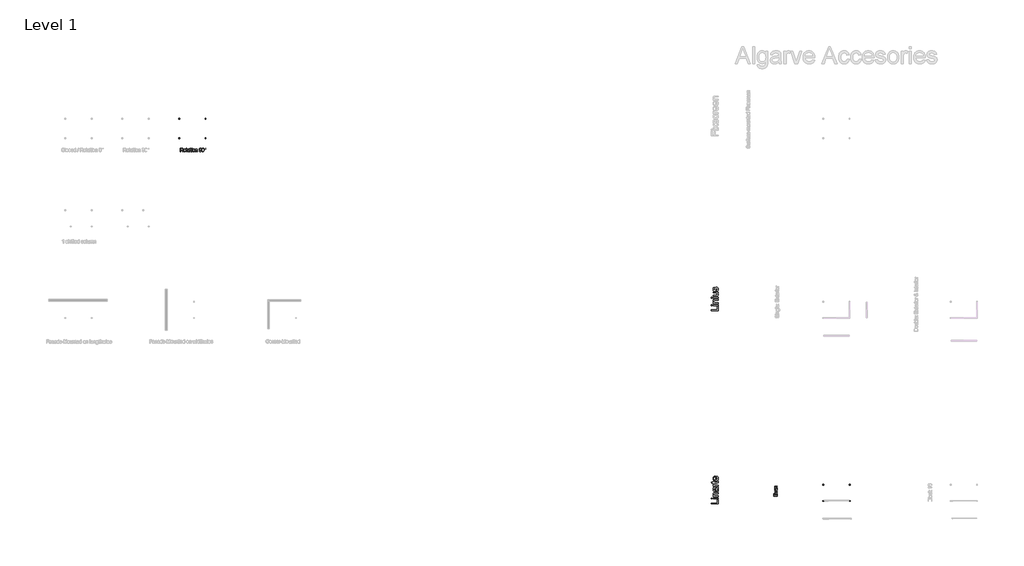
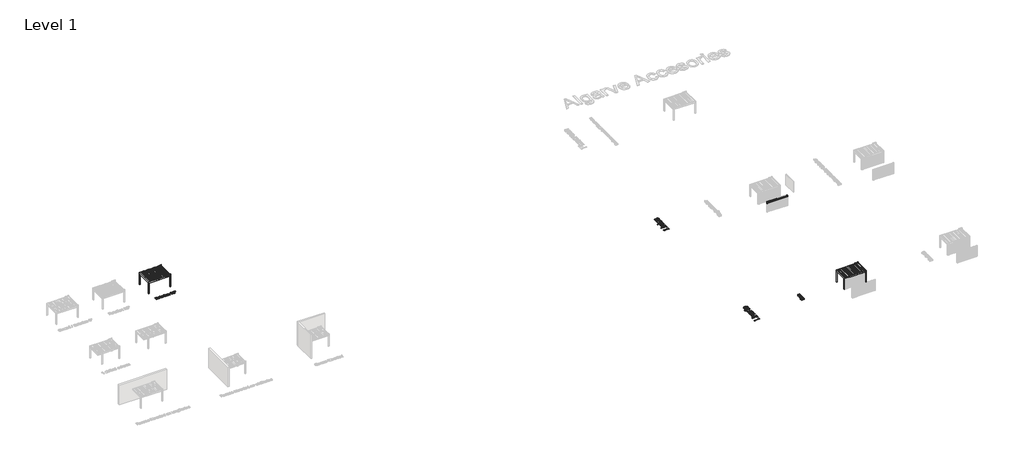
# One storey, part 35 of 47: 16 proxies.
"""IFC4 building model written with IfcOpenShell, lengths in millimetres."""

from ifc_helpers import new_model, si_unit, frame, origin, origin_with_axes, place, context, project, spatial, polyline, outline, extrude, transform, mapped, element, save
from components import generic_models_6c472f40, generic_models_74493efa

model = new_model("IFC4")

# Units and contexts
model_context = context("Model", 3, world=origin())
ifc_project = project(units=[si_unit("LENGTHUNIT", "METRE", prefix="MILLI")], contexts=[model_context])

# Site, building, storey
site = spatial("IfcSite", under=ifc_project)
building = spatial("IfcBuilding", under=site)
storey = spatial("IfcBuildingStorey", under=building, Name="Level 1", Elevation=0.0)

# Proxies
placement = place(None, origin())
element("IfcBuildingElementProxy", 1, Name="Wall Sweeps", at=placement, inside=storey, context=model_context, shape_type="SweptSolid", body=[
    extrude(outline(polyline([(36890.3757764, 1974.0), (36909.5257764, 1985.0562577), (36909.5257764, 1998.0), (36910.7757764, 1998.0), (36910.7757764, 1984.3345698), (36891.6257764, 1973.2782281), (36891.6257764, 1961.2216933), (36890.3757764, 1960.5), (36890.3757764, 1974.0)])), frame((186472.4238385, 0.0, 0.0), z_axis=(1.0, 0.0, 0.0), x_axis=(0.0, 1.0, 0.0)), (0.0, 0.0, 1.0), 3780.0),
])
element("IfcBuildingElementProxy", 2, Name="Wall Sweeps", at=placement, inside=storey, context=model_context, shape_type="SweptSolid", body=[
    extrude(outline(polyline([(36890.3757764, 1940.7), (36909.5257764, 1951.7562577), (36909.5257764, 1964.7), (36910.7757764, 1964.7), (36910.7757764, 1951.0345698), (36891.6257764, 1939.9782281), (36891.6257764, 1927.9216933), (36890.3757764, 1927.2), (36890.3757764, 1940.7)])), frame((186472.4238385, 0.0, 0.0), z_axis=(1.0, 0.0, 0.0), x_axis=(0.0, 1.0, 0.0)), (0.0, 0.0, 1.0), 3780.0),
])
element("IfcBuildingElementProxy", 3, Name="Wall Sweeps", at=placement, inside=storey, context=model_context, shape_type="SweptSolid", body=[
    extrude(outline(polyline([(36890.3757764, 1907.4), (36909.5257764, 1918.4562577), (36909.5257764, 1931.4), (36910.7757764, 1931.4), (36910.7757764, 1917.7345698), (36891.6257764, 1906.6782281), (36891.6257764, 1894.6216933), (36890.3757764, 1893.9), (36890.3757764, 1907.4)])), frame((186472.4238385, 0.0, 0.0), z_axis=(1.0, 0.0, 0.0), x_axis=(0.0, 1.0, 0.0)), (0.0, 0.0, 1.0), 3780.0),
])
element("IfcBuildingElementProxy", 4, Name="Wall Sweeps", at=placement, inside=storey, context=model_context, shape_type="SweptSolid", body=[
    extrude(outline(polyline([(36890.3757764, 1874.1), (36909.5257764, 1885.1562577), (36909.5257764, 1898.1), (36910.7757764, 1898.1), (36910.7757764, 1884.4345698), (36891.6257764, 1873.3782281), (36891.6257764, 1861.3216933), (36890.3757764, 1860.6), (36890.3757764, 1874.1)])), frame((186472.4238385, 0.0, 0.0), z_axis=(1.0, 0.0, 0.0), x_axis=(0.0, 1.0, 0.0)), (0.0, 0.0, 1.0), 3780.0),
])
element("IfcBuildingElementProxy", 5, Name="Wall Sweeps", at=placement, inside=storey, context=model_context, shape_type="SweptSolid", body=[
    extrude(outline(polyline([(36890.3757764, 1840.8), (36909.5257764, 1851.8562577), (36909.5257764, 1864.8), (36910.7757764, 1864.8), (36910.7757764, 1851.1345698), (36891.6257764, 1840.0782281), (36891.6257764, 1828.0216933), (36890.3757764, 1827.3), (36890.3757764, 1840.8)])), frame((186472.4238385, 0.0, 0.0), z_axis=(1.0, 0.0, 0.0), x_axis=(0.0, 1.0, 0.0)), (0.0, 0.0, 1.0), 3780.0),
])
element("IfcBuildingElementProxy", 6, Name="Wall Sweeps", at=placement, inside=storey, context=model_context, shape_type="SweptSolid", body=[
    extrude(outline(polyline([(36890.3757764, 1807.5), (36909.5257764, 1818.5562577), (36909.5257764, 1831.5), (36910.7757764, 1831.5), (36910.7757764, 1817.8345698), (36891.6257764, 1806.7782281), (36891.6257764, 1794.7216933), (36890.3757764, 1794.0), (36890.3757764, 1807.5)])), frame((186472.4238385, 0.0, 0.0), z_axis=(1.0, 0.0, 0.0), x_axis=(0.0, 1.0, 0.0)), (0.0, 0.0, 1.0), 3780.0),
])
element("IfcBuildingElementProxy", 7, Name="Wall Sweeps", at=placement, inside=storey, context=model_context, shape_type="SweptSolid", body=[
    extrude(outline(polyline([(36890.3757764, 1774.2), (36909.5257764, 1785.2562577), (36909.5257764, 1798.2), (36910.7757764, 1798.2), (36910.7757764, 1784.5345698), (36891.6257764, 1773.4782281), (36891.6257764, 1761.4216933), (36890.3757764, 1760.7), (36890.3757764, 1774.2)])), frame((186472.4238385, 0.0, 0.0), z_axis=(1.0, 0.0, 0.0), x_axis=(0.0, 1.0, 0.0)), (0.0, 0.0, 1.0), 3780.0),
])
element("IfcBuildingElementProxy", 8, Name="Wall Sweeps", at=placement, inside=storey, context=model_context, shape_type="SweptSolid", body=[
    extrude(outline(polyline([(36890.3757764, 1740.9), (36909.5257764, 1751.9562577), (36909.5257764, 1764.9), (36910.7757764, 1764.9), (36910.7757764, 1751.2345698), (36891.6257764, 1740.1782281), (36891.6257764, 1728.1216933), (36890.3757764, 1727.4), (36890.3757764, 1740.9)])), frame((186472.4238385, 0.0, 0.0), z_axis=(1.0, 0.0, 0.0), x_axis=(0.0, 1.0, 0.0)), (0.0, 0.0, 1.0), 3780.0),
])
element("IfcBuildingElementProxy", 9, Name="Wall Sweeps", at=placement, inside=storey, context=model_context, shape_type="SweptSolid", body=[
    extrude(outline(polyline([(36890.3757764, 1707.6), (36909.5257764, 1718.6562577), (36909.5257764, 1731.6), (36910.7757764, 1731.6), (36910.7757764, 1717.9345698), (36891.6257764, 1706.8782281), (36891.6257764, 1694.8216933), (36890.3757764, 1694.1), (36890.3757764, 1707.6)])), frame((186472.4238385, 0.0, 0.0), z_axis=(1.0, 0.0, 0.0), x_axis=(0.0, 1.0, 0.0)), (0.0, 0.0, 1.0), 3780.0),
])
element("IfcBuildingElementProxy", 10, Name="Wall Sweeps", at=placement, inside=storey, context=model_context, shape_type="SweptSolid", body=[
    extrude(outline(polyline([(36890.3757764, 1674.3), (36909.5257764, 1685.3562577), (36909.5257764, 1698.3), (36910.7757764, 1698.3), (36910.7757764, 1684.6345698), (36891.6257764, 1673.5782281), (36891.6257764, 1661.5216933), (36890.3757764, 1660.8), (36890.3757764, 1674.3)])), frame((186472.4238385, 0.0, 0.0), z_axis=(1.0, 0.0, 0.0), x_axis=(0.0, 1.0, 0.0)), (0.0, 0.0, 1.0), 3780.0),
])
generic_models_shape = generic_models_6c472f40(model_context)
element("IfcBuildingElementProxy", 11, Name="Renson_Algarve_Single : Algarve - Single", ObjectType="Renson_Algarve_Single : Algarve - Single", at=placement, inside=storey, context=model_context, shape_type="MappedRepresentation", body=[
    mapped(generic_models_shape, transform((188372.4238385, 13765.7325968, 0.0), x_axis=(1.0, 0.0, 0.0), y_axis=(0.0, 1.0, 0.0), z_axis=(0.0, 0.0, 1.0))),
])
generic_models_2_shape = generic_models_74493efa(model_context)
element("IfcBuildingElementProxy", 12, Name="Renson_Algarve_Single Unit With Intermediate Beam : Algarve - Single Unit With Intermediate Beam", ObjectType="Renson_Algarve_Single Unit With Intermediate Beam : Algarve - Single Unit With Intermediate Beam", at=placement, inside=storey, context=model_context, shape_type="MappedRepresentation", body=[
    mapped(generic_models_2_shape, transform((93332.7944478, 68278.5861401, 0.0), x_axis=(1.0, 0.0, 0.0), y_axis=(0.0, 1.0, 0.0), z_axis=(0.0, 0.0, 1.0))),
])
element("IfcBuildingElementProxy", 13, Name="1000mm Arial", ObjectType="1000mm Arial", at=placement, inside=storey, context=model_context, shape_type="SweptSolid", body=[
    extrude(outline(polyline([(170912.6292126, 40635.9088515), (169908.0661111, 40635.9088515), (169908.0661111, 40761.4792392), (170787.058825, 40761.4792392), (170787.058825, 41263.76079), (170912.6292126, 41263.76079), (170912.6292126, 40635.9088515)])), origin_with_axes(), (0.0, 0.0, 1.0), 5.0),
    extrude(outline(polyline([(170912.6292126, 41389.3311777), (170174.903185, 41389.3311777), (170174.903185, 41514.9015653), (170912.6292126, 41514.9015653), (170912.6292126, 41389.3311777)])), origin_with_axes(), (0.0, 0.0, 1.0), 5.0),
    extrude(outline(polyline([(170033.6364988, 41389.3311777), (169908.0661111, 41389.3311777), (169908.0661111, 41514.9015653), (170033.6364988, 41514.9015653), (170033.6364988, 41389.3311777)])), origin_with_axes(), (0.0, 0.0, 1.0), 5.0),
    extrude(outline(polyline([(170912.6292126, 41703.2571469), (170174.903185, 41703.2571469), (170174.903185, 41828.8275346), (170277.9101436, 41828.8275346), (170250.0890677, 41849.5438894), (170225.9774686, 41872.4522078), (170205.5753463, 41897.5524898), (170188.8827008, 41924.8447353), (170175.8995321, 41954.3289444), (170166.6258401, 41986.005117), (170161.0616249, 42019.8732532), (170159.2068865, 42055.9333529), (170165.1849689, 42117.8294986), (170172.657572, 42146.8231983), (170183.1192162, 42174.5139827), (170196.0104145, 42199.8518551), (170210.7716795, 42221.7868191), (170227.4030114, 42240.3188746), (170245.9044101, 42255.4480216), (170288.4254373, 42278.2873622), (170338.2427908, 42293.0946125), (170385.8835092, 42298.0610194), (170459.6438493, 42299.7164884), (170912.6292126, 42299.7164884), (170912.6292126, 42174.1461007), (170476.566421, 42174.1461007), (170411.6352489, 42170.5285944), (170365.4660585, 42159.6760756), (170347.9993279, 42151.0538413), (170332.3873358, 42139.6571637), (170318.630082, 42125.4860426), (170306.7275666, 42108.5404782), (170290.2648473, 42068.6559386), (170284.7772742, 42022.333464), (170287.8582859, 41984.2040281), (170297.101321, 41948.7877218), (170312.5063796, 41916.0845453), (170334.0734616, 41886.0944985), (170364.2551136, 41861.0402018), (170405.5038823, 41843.1442755), (170457.8197677, 41832.4067198), (170521.2027698, 41828.8275346), (170912.6292126, 41828.8275346), (170912.6292126, 41703.2571469)])), origin_with_axes(), (0.0, 0.0, 1.0), 5.0),
    extrude(outline(polyline([(170912.6292126, 42472.3757715), (170174.903185, 42472.3757715), (170174.903185, 42597.9461591), (170912.6292126, 42597.9461591), (170912.6292126, 42472.3757715)])), origin_with_axes(), (0.0, 0.0, 1.0), 5.0),
    extrude(outline(polyline([(170033.6364988, 42472.3757715), (169908.0661111, 42472.3757715), (169908.0661111, 42597.9461591), (170033.6364988, 42597.9461591), (170033.6364988, 42472.3757715)])), origin_with_axes(), (0.0, 0.0, 1.0), 5.0),
    extrude(outline(polyline([(170912.6292126, 43257.1906945), (170785.8325516, 43257.1906945), (170819.229339, 43235.4090147), (170848.1732214, 43211.7572681), (170872.6641988, 43186.2354547), (170892.7022712, 43158.8435745), (170908.2874387, 43129.5816274), (170919.4197011, 43098.4496136), (170926.0990586, 43065.4475329), (170928.3255111, 43030.5753855), (170926.7620126, 42999.4663643), (170922.0715172, 42969.4150038), (170914.2540248, 42940.421304), (170903.3095354, 42912.485265), (170875.1052491, 42864.7219193), (170858.611873, 42846.1285501), (170840.5243416, 42831.0607168), (170798.5244805, 42808.4053172), (170748.0633335, 42793.6593806), (170700.4839288, 42788.1411506), (170631.3221137, 42786.3017407), (170174.903185, 42786.3017407), (170174.903185, 42911.8721284), (170572.2157398, 42911.8721284), (170651.6782507, 42913.772852), (170700.2386741, 42919.4750229), (170722.871081, 42926.9936112), (170742.9436424, 42937.7771522), (170760.4563582, 42951.8256459), (170775.4092284, 42969.1390923), (170787.3730575, 42989.1963252), (170795.9186497, 43011.4761786), (170801.046005, 43035.9786523), (170802.7551234, 43062.7037464), (170801.0076839, 43090.2259181), (170795.7653655, 43116.8743702), (170787.0281681, 43142.6491025), (170774.7960918, 43167.550115), (170759.5519816, 43190.2285072), (170741.7786827, 43209.3353783), (170721.4761951, 43224.8707284), (170698.6445188, 43236.8345574), (170671.8274542, 43245.7403674), (170639.5688017, 43252.1016602), (170558.7267333, 43257.1906945), (170174.903185, 43257.1906945), (170174.903185, 43382.7610822), (170912.6292126, 43382.7610822), (170912.6292126, 43257.1906945)])), origin_with_axes(), (0.0, 0.0, 1.0), 5.0),
    extrude(outline(polyline([(170692.8810342, 43508.3314699), (170677.1847357, 43633.9018576), (170705.8182177, 43641.4894237), (170730.895507, 43653.7061716), (170752.4166037, 43670.5521013), (170770.3815078, 43692.0272128), (170784.5449647, 43718.1928197), (170794.6617195, 43749.1102357), (170800.7317724, 43784.7794608), (170802.7551234, 43825.2004951), (170800.900385, 43865.575544), (170795.3361698, 43900.3710494), (170786.0624779, 43929.5870112), (170773.0793091, 43953.2234294), (170757.5976085, 43971.464245), (170740.8283209, 43984.493399), (170722.7714463, 43992.3108914), (170703.4269847, 43994.9167222), (170686.4737561, 43992.2955629), (170671.4212511, 43984.4320853), (170658.2694698, 43971.3262892), (170647.0184121, 43952.9781747), (170631.076859, 43905.950593), (170611.2112313, 43823.7289671), (170578.0711949, 43709.1337256), (170549.7749381, 43634.6376216), (170535.5884886, 43609.0621587), (170518.9035073, 43586.7823053), (170499.7199941, 43567.7980616), (170478.037949, 43552.1094273), (170454.5088297, 43539.8237015), (170429.784094, 43531.0481831), (170403.8637417, 43525.782872), (170376.747773, 43524.0277683), (170328.0953791, 43529.6686256), (170283.1831189, 43546.5911974), (170243.7890886, 43573.262642), (170211.6913845, 43608.1501179), (170191.4885316, 43642.8229959), (170174.535303, 43687.9805109), (170163.0389906, 43740.1890973), (170159.2068865, 43796.0151901), (170160.7473924, 43838.2143206), (170165.3689099, 43877.7463067), (170173.0714392, 43914.6111483), (170183.8549802, 43948.8088454), (170197.2673446, 43979.526992), (170212.8563442, 44005.953182), (170230.6219788, 44028.0874154), (170250.5642487, 44045.9296922), (170273.3805966, 44060.3997173), (170299.7684655, 44072.4171958), (170329.7278555, 44081.9821277), (170363.2587665, 44089.0945129), (170378.955065, 43963.5241252), (170357.978127, 43957.5383786), (170339.4384073, 43947.6745426), (170323.3359058, 43933.9326173), (170309.6706225, 43916.3126025), (170298.7797827, 43894.7378563), (170291.0006113, 43869.1317366), (170286.3331085, 43839.4942434), (170284.7772742, 43805.8253766), (170286.2641306, 43766.7685715), (170290.7246998, 43733.7205056), (170298.1589818, 43706.6811789), (170308.5669766, 43685.6505915), (170320.9523371, 43669.877651), (170334.3187162, 43658.6112649), (170348.666114, 43651.8514332), (170363.9945305, 43649.598156), (170383.3083353, 43653.3382896), (170400.5374754, 43664.5586905), (170415.9272055, 43683.7498679), (170428.2512523, 43711.4023312), (170454.9840106, 43819.5596378), (170487.7868219, 43930.5067162), (170514.0903845, 44003.8685174), (170526.9202691, 44029.6815707), (170542.3559845, 44052.5515681), (170560.3975307, 44072.4785095), (170581.0449077, 44089.4623949), (170604.3287723, 44103.0357077), (170630.2797813, 44112.7309311), (170658.8979349, 44118.5480652), (170690.1832329, 44120.4871098), (170721.6064866, 44118.21084), (170752.1100354, 44111.3820305), (170781.6938792, 44100.0006812), (170810.358018, 44084.0667923), (170836.9604848, 44063.8409468), (170860.3593125, 44039.5837277), (170880.5545012, 44011.2951352), (170897.5460508, 43978.975169), (170911.0120647, 43943.5052133), (170920.630646, 43905.766652), (170926.4017948, 43865.759485), (170928.3255111, 43823.4837124), (170924.6160343, 43755.9007242), (170913.487604, 43696.8709924), (170894.94022, 43646.394517), (170868.9738826, 43604.4712979), (170835.7112188, 43570.2276156), (170795.2748562, 43542.7897501), (170747.6647946, 43522.1577015), (170692.8810342, 43508.3314699)])), origin_with_axes(), (0.0, 0.0, 1.0), 5.0),
])
element("IfcBuildingElementProxy", 14, Name="1000mm Arial", ObjectType="1000mm Arial", at=placement, inside=storey, context=model_context, shape_type="SweptSolid", body=[
    extrude(outline(polyline([(170912.6292126, 12123.4042599), (169908.0661111, 12123.4042599), (169908.0661111, 12248.9746476), (170787.058825, 12248.9746476), (170787.058825, 12751.2561983), (170912.6292126, 12751.2561983), (170912.6292126, 12123.4042599)])), origin_with_axes(), (0.0, 0.0, 1.0), 5.0),
    extrude(outline(polyline([(170912.6292126, 12876.826586), (170174.903185, 12876.826586), (170174.903185, 13002.3969737), (170912.6292126, 13002.3969737), (170912.6292126, 12876.826586)])), origin_with_axes(), (0.0, 0.0, 1.0), 5.0),
    extrude(outline(polyline([(170033.6364988, 12876.826586), (169908.0661111, 12876.826586), (169908.0661111, 13002.3969737), (170033.6364988, 13002.3969737), (170033.6364988, 12876.826586)])), origin_with_axes(), (0.0, 0.0, 1.0), 5.0),
    extrude(outline(polyline([(170912.6292126, 13190.7525552), (170174.903185, 13190.7525552), (170174.903185, 13316.3229429), (170277.9101436, 13316.3229429), (170250.0890677, 13337.0392978), (170225.9774686, 13359.9476162), (170205.5753463, 13385.0478981), (170188.8827008, 13412.3401436), (170175.8995321, 13441.8243527), (170166.6258401, 13473.5005253), (170161.0616249, 13507.3686615), (170159.2068865, 13543.4287613), (170165.1849689, 13605.324907), (170172.657572, 13634.3186067), (170183.1192162, 13662.009391), (170196.0104145, 13687.3472635), (170210.7716795, 13709.2822274), (170227.4030114, 13727.8142829), (170245.9044101, 13742.94343), (170288.4254373, 13765.7827705), (170338.2427908, 13780.5900208), (170385.8835092, 13785.5564278), (170459.6438493, 13787.2118967), (170912.6292126, 13787.2118967), (170912.6292126, 13661.641509), (170476.566421, 13661.641509), (170411.6352489, 13658.0240028), (170365.4660585, 13647.1714839), (170347.9993279, 13638.5492496), (170332.3873358, 13627.152572), (170318.630082, 13612.981451), (170306.7275666, 13596.0358866), (170290.2648473, 13556.1513469), (170284.7772742, 13509.8288724), (170287.8582859, 13471.6994364), (170297.101321, 13436.2831302), (170312.5063796, 13403.5799536), (170334.0734616, 13373.5899068), (170364.2551136, 13348.5356101), (170405.5038823, 13330.6396839), (170457.8197677, 13319.9021282), (170521.2027698, 13316.3229429), (170912.6292126, 13316.3229429), (170912.6292126, 13190.7525552)])), origin_with_axes(), (0.0, 0.0, 1.0), 5.0),
    extrude(outline(polyline([(170818.4514219, 14430.7601336), (170846.3951251, 14400.9846846), (170869.8935875, 14370.7647116), (170888.9468092, 14340.1002144), (170903.5547901, 14308.9911932), (170914.3919805, 14277.0850944), (170922.1328309, 14244.0293642), (170926.777341, 14209.8240029), (170928.3255111, 14174.4690103), (170924.6007059, 14118.5586113), (170913.4262903, 14069.5306712), (170894.8022643, 14027.3851901), (170868.7286279, 13992.122168), (170836.8608501, 13964.2780995), (170800.8543998, 13944.3894792), (170760.7092771, 13932.456307), (170716.4254819, 13928.4785829), (170664.3701796, 13934.4873221), (170640.1359531, 13941.9982462), (170617.0973432, 13952.5135399), (170576.6303237, 13980.3192874), (170544.9924721, 14015.6666157), (170521.0801424, 14057.2066244), (170503.7896887, 14103.5904126), (170494.1634431, 14148.7785843), (170484.9050796, 14212.2382285), (170465.0394518, 14340.6290448), (170453.819051, 14390.2011437), (170441.7402588, 14430.0243696), (170413.7812272, 14430.7601336), (170383.3389921, 14428.5988269), (170357.7405366, 14422.1149067), (170336.9858607, 14411.3083731), (170321.0749644, 14396.1792261), (170305.1947249, 14370.0289476), (170293.8516968, 14338.1764982), (170287.0458798, 14300.6218778), (170284.7772742, 14257.3650866), (170286.2871232, 14217.1433218), (170290.8166703, 14182.5624142), (170298.3659154, 14153.6223639), (170308.9348586, 14130.3231709), (170323.3512342, 14111.1779787), (170342.442777, 14094.699931), (170366.2094867, 14080.8890278), (170394.6513634, 14069.745269), (170378.955065, 13944.1748813), (170342.7800021, 13953.732149), (170310.2837592, 13965.9718896), (170281.4663363, 13980.894103), (170256.3277332, 13998.4987893), (170234.3621125, 14019.5447051), (170215.0636361, 14044.790607), (170198.4323043, 14074.2364951), (170184.4681169, 14107.8823692), (170173.4163286, 14145.0461149), (170165.5221941, 14185.0456177), (170160.7857134, 14227.8808775), (170159.2068865, 14273.5518944), (170164.7864301, 14358.4406647), (170171.7608596, 14394.2861666), (170181.5250609, 14425.732413), (170206.6943207, 14476.4694715), (170221.4172647, 14496.0208667), (170237.5657515, 14511.6941726), (170275.7335085, 14535.0546793), (170322.791747, 14550.1991547), (170366.2018225, 14554.7976797), (170432.6658363, 14556.3305213), (170588.8930569, 14556.3305213), (170724.9787383, 14557.9246766), (170807.04708, 14562.7071426), (170860.9724492, 14572.1494471), (170912.6292126, 14587.7231182), (170912.6292126, 14462.1527306), (170868.9738826, 14442.0418481), (170818.4514219, 14430.7601336)]), holes=[polyline([(170567.3106465, 14430.7601336), (170588.2186066, 14346.3925294), (170605.8156287, 14228.1797816), (170615.4418742, 14163.0340116), (170626.1717657, 14120.1451024), (170640.0899679, 14092.0327866), (170659.2811453, 14071.216797), (170682.27377, 14058.3409272), (170707.596314, 14054.0489706), (170727.1093882, 14056.3865541), (170744.9363365, 14063.3993046), (170761.077159, 14075.0872222), (170775.5318558, 14091.4503067), (170787.4420354, 14112.3352742), (170795.9493065, 14137.5888403), (170801.0536692, 14167.2110051), (170802.7551234, 14201.2017686), (170800.8773924, 14235.9053035), (170795.2441994, 14268.6468011), (170785.8555443, 14299.4262614), (170772.7114271, 14328.2436843), (170756.9001656, 14354.2406786), (170739.5100771, 14376.558853), (170720.5411617, 14395.1982074), (170699.9934194, 14410.1587419), (170681.5993197, 14418.849954), (170659.2811453, 14425.0579627), (170602.8725727, 14430.0243696), (170567.3106465, 14430.7601336)])]), origin_with_axes(), (0.0, 0.0, 1.0), 5.0),
    extrude(outline(polyline([(170807.9054714, 15466.715832), (170916.3080326, 15482.4121305), (170925.3211415, 15432.6867475), (170928.3255111, 15388.4795944), (170923.1138495, 15328.2082609), (170916.5992725, 15303.8207503), (170907.4788647, 15283.2653438), (170883.382594, 15251.5048649), (170868.8972405, 15239.7632979), (170852.7870748, 15230.7808458), (170831.189336, 15224.1283131), (170800.2412631, 15219.376504), (170710.2941153, 15215.5750567), (170300.4735727, 15215.5750567), (170300.4735727, 15121.3972659), (170197.9571233, 15121.3972659), (170174.903185, 15121.3972659), (170174.903185, 15215.5750567), (169995.622026, 15215.5750567), (169921.8003723, 15341.1454444), (170174.903185, 15341.1454444), (170174.903185, 15466.715832), (170300.4735727, 15466.715832), (170300.4735727, 15341.1454444), (170706.6152953, 15341.1454444), (170747.9407061, 15342.8009133), (170771.3625265, 15347.7673203), (170784.3303668, 15356.443204), (170794.2938375, 15369.2271033), (170800.6398019, 15387.3452916), (170802.7551234, 15412.0240421), (170807.9054714, 15466.715832)])), origin_with_axes(), (0.0, 0.0, 1.0), 5.0),
    extrude(outline(polyline([(170912.6292126, 14728.9898044), (170174.903185, 14728.9898044), (170174.903185, 14838.8638936), (170284.0415102, 14838.8638936), (170220.765807, 14879.4535404), (170198.8768283, 14898.5527473), (170183.4870982, 14916.8548766), (170165.2769394, 14954.3788401), (170159.2068865, 14995.3363689), (170161.6287763, 15026.4837112), (170168.8944457, 15057.8763081), (170181.0038947, 15089.5141597), (170197.9571233, 15121.3972659), (170310.5290139, 15079.4587185), (170291.2152091, 15035.312879), (170286.3867579, 15013.2399593), (170284.7772742, 14991.1670396), (170286.3254443, 14971.9222127), (170290.9699545, 14953.6737329), (170298.7108048, 14936.4216002), (170309.5479952, 14920.1658145), (170323.1289722, 14905.5195126), (170339.1011822, 14893.0958311), (170378.219301, 14874.9163291), (170448.3621347, 14859.6492263), (170524.8815897, 14854.5601921), (170912.6292126, 14854.5601921), (170912.6292126, 14728.9898044)])), origin_with_axes(), (0.0, 0.0, 1.0), 5.0),
    extrude(outline(polyline([(170692.8810342, 16108.792541), (170708.5773327, 16231.910382), (170757.8888484, 16213.0334371), (170801.3449091, 16187.5499448), (170838.9455147, 16155.4599049), (170870.6906652, 16116.7633175), (170895.9059103, 16071.8587215), (170913.9167996, 16021.1446556), (170924.7233332, 15964.6211199), (170928.3255111, 15902.2881143), (170926.7715929, 15862.269451), (170922.1098382, 15824.3737734), (170914.3402471, 15788.6010815), (170903.4628196, 15754.9513753), (170889.4775556, 15723.4246547), (170872.3844552, 15694.0209198), (170852.1835184, 15666.7401706), (170828.8747451, 15641.5824071), (170802.7608716, 15618.9921533), (170774.1446341, 15599.4139334), (170743.0260326, 15582.8477473), (170709.4050671, 15569.293595), (170673.2817377, 15558.7514766), (170634.6560442, 15551.221392), (170593.5279868, 15546.7033413), (170549.8975654, 15545.1973244), (170504.7822036, 15546.7186697), (170462.2650085, 15551.2827057), (170422.3459799, 15558.8894324), (170385.0251179, 15569.5388497), (170350.3024225, 15583.2309577), (170318.1778937, 15599.9657564), (170288.6515315, 15619.7432457), (170261.7233358, 15642.5634257), (170237.696043, 15667.8093277), (170216.8723893, 15694.8639827), (170199.2523745, 15723.7273909), (170184.8359989, 15754.3995523), (170173.6232622, 15786.8804668), (170165.6141646, 15821.1701344), (170160.808706, 15857.2685552), (170159.2068865, 15895.1757291), (170160.8048739, 15931.8432173), (170165.5988362, 15966.797755), (170173.5887733, 16000.0393422), (170184.7746852, 16031.5679788), (170199.1565719, 16061.3836649), (170216.7344335, 16089.4864004), (170237.5082699, 16115.8761854), (170261.4780812, 16140.5530199), (170288.3449631, 16162.8846066), (170317.8100117, 16182.2386485), (170349.8732268, 16198.6151454), (170384.5346086, 16212.0140974), (170421.7941569, 16222.4355046), (170461.6518718, 16229.8793668), (170549.1618014, 16235.8344566), (170583.006945, 16235.0986926), (170583.006945, 15670.767712), (170633.1155384, 15678.0410457), (170677.0007947, 15692.5034066), (170714.662714, 15714.1547948), (170746.1012962, 15742.9952104), (170770.8873456, 15777.430498), (170788.5916666, 15815.8665023), (170799.2142592, 15858.3032233), (170802.7551234, 15904.740661), (170801.1149829, 15939.4748527), (170796.1945612, 15971.5725568), (170787.9938584, 16001.0337732), (170776.5128744, 16027.858502), (170761.445041, 16052.0467432), (170742.4837899, 16073.5984968), (170719.6291209, 16092.5137627), (170692.8810342, 16108.792541)]), holes=[polyline([(170457.4365573, 15670.767712), (170457.4365573, 16110.2640689), (170421.9052879, 16103.8108056), (170391.0951708, 16093.2801835), (170365.006206, 16078.6722026), (170343.6383934, 16059.9868629), (170317.8866538, 16025.7431806), (170299.492554, 15986.7783459), (170288.4560942, 15943.092359), (170284.7772742, 15894.6852198), (170287.712666, 15850.5317161), (170296.5188412, 15810.041704), (170311.1958, 15773.2151835), (170331.7435423, 15740.0521545), (170357.2117062, 15712.2234144), (170386.64993, 15691.3997606), (170420.0582137, 15677.5811932), (170457.4365573, 15670.767712)])]), origin_with_axes(), (0.0, 0.0, 1.0), 5.0),
])
element("IfcBuildingElementProxy", 15, Name="500mm Arial", ObjectType="500mm Arial", at=placement, inside=storey, context=model_context, shape_type="SweptSolid", body=[
    extrude(outline(polyline([(91574.9410888, 64128.5861401), (91574.9410888, 64630.8676909), (91791.3783293, 64630.8676909), (91849.5496698, 64627.4801108), (91891.8714276, 64617.3173707), (91922.8041721, 64598.555389), (91946.8084722, 64569.370084), (91962.2135308, 64533.1796927), (91967.3485503, 64493.402452), (91965.2217325, 64467.6047271), (91958.8412792, 64443.9223237), (91948.2071902, 64422.3552417), (91933.3194658, 64402.9034812), (91913.9865005, 64386.187843), (91890.0166892, 64372.8291281), (91861.410032, 64362.8273364), (91828.1665288, 64356.1824678), (91848.859891, 64342.6628045), (91863.8510823, 64329.3270822), (91914.741425, 64264.7024784), (91998.4958926, 64128.5861401), (91925.5326302, 64128.5861401), (91860.1722624, 64232.6967448), (91812.9607397, 64301.6133052), (91795.4097028, 64321.7088592), (91779.7900464, 64334.1708618), (91749.9302912, 64346.1270266), (91713.5099736, 64348.3343186), (91637.7262826, 64348.3343186), (91637.7262826, 64128.5861401), (91574.9410888, 64128.5861401)]), holes=[polyline([(91637.7262826, 64411.1195124), (91778.2572048, 64411.1195124), (91818.6169253, 64413.3421328), (91849.9328802, 64420.009994), (91873.5079847, 64431.56762), (91890.6451543, 64448.4595349), (91901.0838059, 64468.8923141), (91904.5633565, 64491.0725327), (91902.9040554, 64507.129049), (91897.9261521, 64521.6987088), (91889.6296467, 64534.7815123), (91878.0145391, 64546.3774593), (91862.8125821, 64555.8734133), (91843.7555283, 64562.6562376), (91794.0761306, 64568.082497), (91637.7262826, 64568.082497), (91637.7262826, 64411.1195124)])]), origin_with_axes(), (0.0, 0.0, 1.0), 5.0),
    extrude(outline(polyline([(92053.6781918, 64313.0176471), (92057.0734361, 64360.788657), (92067.2591688, 64401.9531194), (92084.2353901, 64436.5110343), (92108.0020998, 64464.4624017), (92131.9297579, 64482.3276711), (92158.3406195, 64495.0885778), (92187.2346845, 64502.7451219), (92218.611953, 64505.2973032), (92253.2503421, 64502.1894668), (92284.5701291, 64492.8659574), (92312.5713138, 64477.3267753), (92337.2538965, 64455.5719202), (92357.3992678, 64428.3371562), (92371.7888188, 64396.3582474), (92380.4225493, 64359.6351936), (92383.3004595, 64318.167995), (92378.2114253, 64254.7390076), (92371.8501324, 64228.7036923), (92362.9443225, 64206.4544958), (92351.6051264, 64187.2364936), (92337.9436752, 64170.2947613), (92321.9599689, 64155.6292989), (92303.6540076, 64143.2401063), (92262.926405, 64126.3635197), (92218.611953, 64120.7379909), (92183.4677262, 64123.834331), (92151.8566993, 64133.1233514), (92123.7788724, 64148.605052), (92099.2342456, 64170.2794329), (92079.3034721, 64197.7786121), (92065.0672053, 64230.7347075), (92056.5254452, 64269.1477191), (92053.6781918, 64313.0176471)]), holes=[polyline([(92116.4633857, 64313.1402744), (92118.279803, 64282.686543), (92123.7290551, 64256.3178345), (92132.8111418, 64234.0341491), (92145.5260633, 64215.8354867), (92160.9924355, 64201.6988546), (92178.3288745, 64191.6012602), (92197.5353804, 64185.5427036), (92218.611953, 64183.5231847), (92239.5812267, 64185.5541999), (92258.7110905, 64191.6472455), (92276.0015443, 64201.8023214), (92291.4525881, 64216.0194277), (92304.1675095, 64234.398199), (92313.2495963, 64257.0382701), (92318.6988483, 64283.939641), (92320.5152657, 64315.1023117), (92318.687352, 64344.5903529), (92313.203611, 64370.2692825), (92304.0640427, 64392.1391007), (92291.2686471, 64410.1998074), (92275.7601217, 64424.3364395), (92258.4811642, 64434.4340339), (92239.4317747, 64440.4925905), (92218.611953, 64442.5121094), (92197.5353804, 64440.5002547), (92178.3288745, 64434.4646907), (92160.9924355, 64424.4054174), (92145.5260633, 64410.3224348), (92132.8111418, 64392.1774218), (92123.7290551, 64369.9320574), (92118.279803, 64343.5863416), (92116.4633857, 64313.1402744)])]), origin_with_axes(), (0.0, 0.0, 1.0), 5.0),
    extrude(outline(polyline([(92587.3523395, 64180.9480108), (92595.2004887, 64126.7467302), (92548.2342207, 64120.7379909), (92518.0985539, 64123.3438217), (92495.6270954, 64131.1613141), (92479.7468559, 64143.2094494), (92469.3848464, 64158.5072091), (92463.6826755, 64184.7801149), (92461.7819518, 64229.7536888), (92461.7819518, 64434.6639601), (92414.6930564, 64434.6639601), (92414.6930564, 64497.449154), (92461.7819518, 64497.449154), (92461.7819518, 64587.0897335), (92524.5671457, 64624.0005603), (92524.5671457, 64497.449154), (92587.3523395, 64497.449154), (92587.3523395, 64434.6639601), (92524.5671457, 64434.6639601), (92524.5671457, 64231.5930988), (92527.8780836, 64199.2194832), (92538.6079751, 64187.7538277), (92560.0064445, 64183.5231847), (92587.3523395, 64180.9480108)])), origin_with_axes(), (0.0, 0.0, 1.0), 5.0),
    extrude(outline(polyline([(92885.5820103, 64175.6750355), (92855.5842992, 64149.9539527), (92824.6975401, 64133.1233514), (92792.2166256, 64123.834331), (92757.4364486, 64120.7379909), (92729.4812491, 64122.6003935), (92704.9672791, 64128.1876013), (92683.8945385, 64137.4996143), (92666.2630275, 64150.5364325), (92652.3409932, 64166.4703214), (92642.396683, 64184.4735466), (92636.4300969, 64204.5461079), (92634.4412349, 64226.6880055), (92637.4456045, 64252.7156567), (92646.4587134, 64276.3520749), (92660.3615871, 64296.5855846), (92678.0352513, 64312.4045104), (92698.8052556, 64324.3606752), (92721.9971497, 64333.0059021), (92776.3210577, 64342.4482067), (92840.5164659, 64352.3810205), (92885.2141283, 64364.030617), (92885.5820103, 64378.0101329), (92881.2593968, 64406.0304782), (92868.2915565, 64424.3632643), (92855.2164172, 64432.303384), (92839.2901925, 64437.9748981), (92798.8844867, 64442.5121094), (92761.4831506, 64439.4924113), (92735.3635289, 64430.4333172), (92717.551909, 64413.679358), (92705.074578, 64387.5750647), (92642.2893841, 64395.423214), (92653.1878882, 64429.7588669), (92669.4513381, 64456.7368798), (92692.597247, 64477.3689284), (92724.143128, 64492.666688), (92762.7247523, 64502.1396494), (92806.9778906, 64505.2973032), (92849.4222758, 64502.5075314), (92883.06815, 64494.138216), (92908.4366792, 64481.5535861), (92926.0490297, 64466.1178707), (92937.7292831, 64447.0339922), (92945.3015208, 64423.5048729), (92948.3672041, 64368.5678283), (92948.3672041, 64290.454218), (92951.5555147, 64181.3772064), (92956.276667, 64154.4145219), (92964.0635026, 64128.5861401), (92901.2783087, 64128.5861401), (92891.2228675, 64150.4138052), (92885.5820103, 64175.6750355)]), holes=[polyline([(92885.5820103, 64301.2454232), (92843.3982082, 64290.7914432), (92784.2918343, 64281.9929321), (92730.2744946, 64271.8148636), (92716.2183367, 64264.8557625), (92705.810342, 64255.2601738), (92699.372407, 64243.7638615), (92697.2264287, 64231.1025895), (92701.9015958, 64212.4325782), (92715.9270968, 64197.1348186), (92738.9963636, 64186.9260932), (92770.8028278, 64183.5231847), (92804.525344, 64187.2786468), (92834.3237856, 64198.5450329), (92858.48137, 64215.1457079), (92875.2813144, 64234.9040367), (92882.7309248, 64255.2601738), (92885.2141283, 64283.4644601), (92885.5820103, 64301.2454232)])]), origin_with_axes(), (0.0, 0.0, 1.0), 5.0),
    extrude(outline(polyline([(93168.1153826, 64180.9480108), (93175.9635318, 64126.7467302), (93128.9972637, 64120.7379909), (93098.861597, 64123.3438217), (93076.3901384, 64131.1613141), (93060.509899, 64143.2094494), (93050.1478894, 64158.5072091), (93044.4457185, 64184.7801149), (93042.5449949, 64229.7536888), (93042.5449949, 64434.6639601), (92995.4560995, 64434.6639601), (92995.4560995, 64497.449154), (93042.5449949, 64497.449154), (93042.5449949, 64587.0897335), (93105.3301887, 64624.0005603), (93105.3301887, 64497.449154), (93168.1153826, 64497.449154), (93168.1153826, 64434.6639601), (93105.3301887, 64434.6639601), (93105.3301887, 64231.5930988), (93108.6411267, 64199.2194832), (93119.3710182, 64187.7538277), (93140.7694876, 64183.5231847), (93168.1153826, 64180.9480108)])), origin_with_axes(), (0.0, 0.0, 1.0), 5.0),
    extrude(outline(polyline([(93230.9005764, 64128.5861401), (93230.9005764, 64497.449154), (93293.6857702, 64497.449154), (93293.6857702, 64128.5861401), (93230.9005764, 64128.5861401)])), origin_with_axes(), (0.0, 0.0, 1.0), 5.0),
    extrude(outline(polyline([(93230.9005764, 64568.082497), (93230.9005764, 64630.8676909), (93293.6857702, 64630.8676909), (93293.6857702, 64568.082497), (93230.9005764, 64568.082497)])), origin_with_axes(), (0.0, 0.0, 1.0), 5.0),
    extrude(outline(polyline([(93372.1672626, 64313.0176471), (93375.5625068, 64360.788657), (93385.7482395, 64401.9531194), (93402.7244608, 64436.5110343), (93426.4911705, 64464.4624017), (93450.4188286, 64482.3276711), (93476.8296902, 64495.0885778), (93505.7237552, 64502.7451219), (93537.1010237, 64505.2973032), (93571.7394128, 64502.1894668), (93603.0591998, 64492.8659574), (93631.0603846, 64477.3267753), (93655.7429672, 64455.5719202), (93675.8883385, 64428.3371562), (93690.2778895, 64396.3582474), (93698.91162, 64359.6351936), (93701.7895302, 64318.167995), (93696.700496, 64254.7390076), (93690.3392031, 64228.7036923), (93681.4333932, 64206.4544958), (93670.0941971, 64187.2364936), (93656.4327459, 64170.2947613), (93640.4490396, 64155.6292989), (93622.1430783, 64143.2401063), (93581.4154757, 64126.3635197), (93537.1010237, 64120.7379909), (93501.9567969, 64123.834331), (93470.34577, 64133.1233514), (93442.2679432, 64148.605052), (93417.7233163, 64170.2794329), (93397.7925428, 64197.7786121), (93383.556276, 64230.7347075), (93375.0145159, 64269.1477191), (93372.1672626, 64313.0176471)]), holes=[polyline([(93434.9524564, 64313.1402744), (93436.7688737, 64282.686543), (93442.2181258, 64256.3178345), (93451.3002126, 64234.0341491), (93464.015134, 64215.8354867), (93479.4815062, 64201.6988546), (93496.8179453, 64191.6012602), (93516.0244511, 64185.5427036), (93537.1010237, 64183.5231847), (93558.0702974, 64185.5541999), (93577.2001612, 64191.6472455), (93594.490615, 64201.8023214), (93609.9416588, 64216.0194277), (93622.6565802, 64234.398199), (93631.738667, 64257.0382701), (93637.187919, 64283.939641), (93639.0043364, 64315.1023117), (93637.1764227, 64344.5903529), (93631.6926817, 64370.2692825), (93622.5531134, 64392.1391007), (93609.7577178, 64410.1998074), (93594.2491924, 64424.3364395), (93576.970235, 64434.4340339), (93557.9208454, 64440.4925905), (93537.1010237, 64442.5121094), (93516.0244511, 64440.5002547), (93496.8179453, 64434.4646907), (93479.4815062, 64424.4054174), (93464.015134, 64410.3224348), (93451.3002126, 64392.1774218), (93442.2181258, 64369.9320574), (93436.7688737, 64343.5863416), (93434.9524564, 64313.1402744)])]), origin_with_axes(), (0.0, 0.0, 1.0), 5.0),
    extrude(outline(polyline([(93772.4228733, 64128.5861401), (93772.4228733, 64497.449154), (93835.2080671, 64497.449154), (93835.2080671, 64445.9456746), (93857.0204038, 64471.9120121), (93883.2166675, 64490.4593961), (93913.7968584, 64501.5878264), (93948.7609763, 64505.2973032), (93979.7090492, 64502.308262), (94008.0512912, 64493.3411384), (94031.6877094, 64479.5149067), (94048.5183107, 64461.9485414), (94059.937981, 64440.6880278), (94067.3416061, 64415.779351), (94070.6525441, 64355.0788218), (94070.6525441, 64128.5861401), (94007.8673502, 64128.5861401), (94007.8673502, 64346.6175359), (94006.0585971, 64379.083122), (94000.6323376, 64402.1677172), (93990.6228817, 64418.7070786), (93975.064539, 64431.5369632), (93955.1222692, 64439.7683228), (93931.9610319, 64442.5121094), (93912.8963139, 64440.9716035), (93895.1881608, 64436.3500859), (93878.8365725, 64428.6475567), (93863.8415491, 64417.8640157), (93851.3144008, 64402.7731897), (93842.3664376, 64382.1488053), (93836.9976598, 64355.9908626), (93835.2080671, 64324.2993616), (93835.2080671, 64128.5861401), (93772.4228733, 64128.5861401)])), origin_with_axes(), (0.0, 0.0, 1.0), 5.0),
    extrude(outline(polyline([(94345.3377671, 64254.1565278), (94408.122961, 64262.0046771), (94418.8528525, 64226.3661088), (94436.3272473, 64202.1012255), (94460.1169496, 64188.1676949), (94489.7927639, 64183.5231847), (94516.4182233, 64186.512226), (94540.6217929, 64195.4793496), (94560.7326753, 64209.443537), (94575.0800731, 64227.4237695), (94585.9479204, 64251.0601877), (94595.6201512, 64281.9929321), (94602.4259681, 64317.4935447), (94604.6945737, 64354.8335672), (94604.3266917, 64367.0963003), (94582.5756688, 64340.547483), (94554.1107994, 64319.5168956), (94520.9860914, 64305.8132913), (94485.2555526, 64301.2454232), (94455.4302863, 64304.035195), (94428.0039171, 64312.4045104), (94402.9764451, 64326.3533694), (94380.3478703, 64345.881772), (94361.5973849, 64369.9703784), (94348.204181, 64397.5998491), (94340.1682587, 64428.770184), (94337.4896179, 64463.4813831), (94340.2985502, 64499.3498776), (94348.7253472, 64531.5395522), (94362.7700088, 64560.0504068), (94382.432535, 64584.8824415), (94406.3257041, 64605.0009881), (94433.0622946, 64619.3713785), (94462.6423062, 64627.9936128), (94495.0657392, 64630.8676909), (94519.0048936, 64629.2275503), (94541.8940515, 64624.3071286), (94563.7332128, 64616.1064258), (94584.5223777, 64604.6254419), (94603.5679351, 64590.1094315), (94620.1762744, 64572.8036493), (94634.3473954, 64552.7080953), (94646.0812982, 64529.8227695), (94655.2821802, 64502.8294281), (94661.8542387, 64470.4098273), (94667.1118856, 64389.2918474), (94661.8695671, 64303.2841026), (94655.3166691, 64267.6033812), (94646.1426119, 64236.8047604), (94634.3818843, 64210.1371478), (94620.0689754, 64186.8494511), (94603.2038852, 64166.9416702), (94583.7866137, 64150.4138052), (94562.2080354, 64137.4306364), (94538.859025, 64128.1569445), (94513.7395825, 64122.5927293), (94486.8497079, 64120.7379909), (94458.6530859, 64122.9261224), (94433.1695935, 64129.4905167), (94410.3992308, 64140.431174), (94390.3419979, 64155.7480941), (94373.5037324, 64175.0274099), (94360.3902721, 64197.8552541), (94351.001617, 64224.2316268), (94345.3377671, 64254.1565278)]), holes=[polyline([(94604.3266917, 64464.9529111), (94602.6329017, 64487.4550264), (94597.5515317, 64507.5045952), (94589.0825816, 64525.1016173), (94577.2260514, 64540.2460927), (94562.5644211, 64552.4245196), (94545.6801703, 64561.123396), (94526.5732992, 64566.3427218), (94505.2438077, 64568.082497), (94483.2322017, 64566.2085981), (94463.3052602, 64560.5869014), (94445.4629835, 64551.2174068), (94429.7053714, 64538.1001144), (94416.8295015, 64522.001445), (94407.6324516, 64503.6878195), (94402.1142217, 64483.1592377), (94400.2748117, 64460.4156998), (94402.014587, 64440.0174096), (94407.2339128, 64421.6194777), (94415.9327892, 64405.2219042), (94428.111216, 64390.824689), (94443.2633557, 64379.1022825), (94460.8833704, 64370.729135), (94480.9712602, 64365.7052465), (94503.5270251, 64364.030617), (94524.5614445, 64365.7052465), (94543.6414909, 64370.729135), (94560.7671642, 64379.1022825), (94575.9384644, 64390.824689), (94588.3583139, 64405.5054799), (94597.2296349, 64422.7537805), (94602.5524275, 64442.5695909), (94604.3266917, 64464.9529111)])]), origin_with_axes(), (0.0, 0.0, 1.0), 5.0),
    extrude(outline(polyline([(94722.0489302, 64375.6802136), (94726.6627835, 64456.0777579), (94740.5043436, 64520.196524), (94750.8510247, 64546.3966198), (94763.4356546, 64569.0175304), (94778.2582334, 64588.0592558), (94795.3187609, 64603.5217959), (94814.6747188, 64615.485625), (94836.3835886, 64624.0312171), (94860.4453704, 64629.1585724), (94886.860064, 64630.8676909), (94925.5489872, 64626.8209889), (94960.1912084, 64614.6808831), (94989.1619155, 64594.9225543), (95010.8362964, 64568.0211834), (95027.2070452, 64534.2066967), (95040.266856, 64493.7090203), (95048.8201124, 64442.2821831), (95051.6711979, 64375.6802136), (95047.1033298, 64295.7425217), (95033.3997254, 64231.7770398), (95023.1335185, 64205.5654476), (95010.6063702, 64182.9100481), (94995.8182804, 64163.8108412), (94978.7692492, 64148.2678269), (94959.3902986, 64136.2235236), (94937.6124509, 64127.6204499), (94913.4357061, 64122.4586057), (94886.860064, 64120.7379909), (94852.2791565, 64123.7270321), (94821.6223236, 64132.6941557), (94794.8895652, 64147.6393618), (94772.0808815, 64168.5626503), (94750.1919028, 64206.3855179), (94734.556918, 64253.5127343), (94725.1759271, 64309.9442995), (94722.0489302, 64375.6802136)]), holes=[polyline([(94784.834124, 64375.8028409), (94786.673534, 64321.222182), (94792.1917639, 64277.0418536), (94801.3888138, 64243.2618558), (94814.2646836, 64219.8821886), (94829.8383548, 64203.9751244), (94847.1288085, 64192.6129357), (94866.136045, 64185.7956225), (94886.860064, 64183.5231847), (94907.5840831, 64185.8032867), (94926.5913195, 64192.6435925), (94943.8817733, 64204.0441023), (94959.4554444, 64220.0048159), (94972.3313142, 64243.4228042), (94981.5283641, 64277.1951378), (94987.046594, 64321.3218167), (94988.886004, 64375.8028409), (94987.1079077, 64428.9387966), (94981.7736188, 64472.3412078), (94972.8831372, 64506.0100746), (94960.4364631, 64529.9453969), (94945.123375, 64546.6303782), (94927.6336518, 64558.548222), (94907.9672935, 64565.6989283), (94886.1243, 64568.082497), (94865.5075799, 64565.982504), (94846.8222402, 64559.6825248), (94830.068281, 64549.1825595), (94815.2457023, 64534.4826081), (94801.9406368, 64508.4243002), (94792.4370186, 64473.2915696), (94786.7348477, 64429.0844165), (94784.834124, 64375.8028409)])]), origin_with_axes(), (0.0, 0.0, 1.0), 5.0),
    extrude(outline(polyline([(95122.3045409, 64544.6606767), (95124.0328199, 64563.4916363), (95129.2176568, 64580.8663964), (95137.8590515, 64596.7849569), (95149.9570042, 64611.2473178), (95164.4768467, 64623.2647963), (95180.3839109, 64631.8487095), (95197.6781968, 64636.9990575), (95216.3597044, 64638.7158401), (95235.2979629, 64636.9990575), (95252.7493651, 64631.8487095), (95268.7139108, 64623.2647963), (95283.1916002, 64611.2473178), (95295.2090787, 64596.7849569), (95303.7929919, 64580.8663964), (95308.9433398, 64563.4916363), (95310.6601225, 64544.6606767), (95308.9318435, 64525.8718702), (95303.7470066, 64508.5009422), (95295.1056119, 64492.5478928), (95283.0076592, 64478.0127219), (95268.4724883, 64465.9147692), (95252.5194388, 64457.2733744), (95235.1485109, 64452.0885375), (95216.3597044, 64450.3602586), (95197.6781968, 64452.0770412), (95180.3839109, 64457.2273892), (95164.4768467, 64465.8113024), (95149.9570042, 64477.8287809), (95137.8590515, 64492.3064702), (95129.2176568, 64508.271016), (95124.0328199, 64525.7224181), (95122.3045409, 64544.6606767)]), holes=[polyline([(95161.5452871, 64544.5380493), (95165.5766606, 64523.4154915), (95177.6707812, 64505.6651852), (95195.4670727, 64493.6170498), (95216.604959, 64489.6010047), (95237.5589043, 64493.6170498), (95255.2938822, 64505.6651852), (95267.3880028, 64523.4154915), (95271.4193763, 64544.5380493), (95267.3880028, 64565.6606072), (95255.2938822, 64583.4109135), (95237.5589043, 64595.4590488), (95216.604959, 64599.475094), (95195.4670727, 64595.4590488), (95177.6707812, 64583.4109135), (95165.5766606, 64565.6606072), (95161.5452871, 64544.5380493)])]), origin_with_axes(), (0.0, 0.0, 1.0), 5.0),
])
element("IfcBuildingElementProxy", 16, Name="500mm Arial", ObjectType="500mm Arial", at=placement, inside=storey, context=model_context, shape_type="SweptSolid", body=[
    extrude(outline(polyline([(179624.5119217, 13278.0065691), (179122.2303709, 13278.0065691), (179122.2303709, 13639.0214337), (179185.0155648, 13639.0214337), (179185.0155648, 13340.791763), (179334.1304002, 13340.791763), (179334.1304002, 13623.3251353), (179396.915594, 13623.3251353), (179396.915594, 13340.791763), (179561.7267278, 13340.791763), (179561.7267278, 13646.869583), (179624.5119217, 13646.869583), (179624.5119217, 13278.0065691)])), origin_with_axes(), (0.0, 0.0, 1.0), 150.0),
    extrude(outline(polyline([(179624.5119217, 13823.6981953), (179255.6489079, 13693.9584784), (179255.6489079, 13760.4224922), (179476.6233596, 13839.0266118), (179550.9355227, 13862.6936868), (179480.7926889, 13885.8702525), (179255.6489079, 13964.9648815), (179255.6489079, 14031.4288953), (179624.5119217, 13903.2833336), (179624.5119217, 13823.6981953)])), origin_with_axes(), (0.0, 0.0, 1.0), 150.0),
    extrude(outline(polyline([(179514.6378325, 14344.6191005), (179522.4859817, 14406.178021), (179547.1417396, 14396.7395486), (179568.8697699, 14383.9978024), (179587.6700727, 14367.9527825), (179603.542648, 14348.6044888), (179616.1502705, 14326.1521908), (179625.1557152, 14300.7951578), (179630.558982, 14272.53339), (179632.3600709, 14241.3668872), (179629.2522345, 14202.4097167), (179619.9287252, 14167.6985176), (179604.389543, 14137.2332899), (179582.6346879, 14111.0140336), (179555.2696324, 14089.9297967), (179522.8998489, 14074.8696275), (179485.5253375, 14065.833526), (179443.1460981, 14062.8214922), (179399.3298196, 14065.8641829), (179360.7098743, 14074.9922549), (179327.2862622, 14090.2057082), (179299.0589833, 14111.5045429), (179276.63351, 14137.6548214), (179260.6153148, 14167.4226061), (179251.0043977, 14200.8078972), (179247.8007586, 14237.8106946), (179250.9967335, 14273.6217075), (179260.584658, 14306.0068194), (179276.5645321, 14334.9660302), (179298.936356, 14360.4993399), (179327.1023212, 14381.3421542), (179360.4646197, 14396.2298787), (179399.0232513, 14405.1625134), (179442.7782161, 14408.1400583), (179459.7007878, 14407.7721763), (179459.7007878, 14125.606686), (179484.7550846, 14129.2433528), (179506.6977127, 14136.4745333), (179525.5286724, 14147.3002274), (179541.2479634, 14161.7204352), (179553.6409882, 14178.938079), (179562.4931487, 14198.1560812), (179567.804445, 14219.3744417), (179569.5748771, 14242.5931605), (179566.294596, 14276.0091084), (179556.4537526, 14304.152081), (179539.4392103, 14327.0220784), (179514.6378325, 14344.6191005)]), holes=[polyline([(179396.915594, 14125.606686), (179396.915594, 14345.3548645), (179363.7449008, 14336.8629218), (179340.0165121, 14320.2162615), (179327.1406423, 14303.0944203), (179317.9435924, 14283.612003), (179312.4253624, 14261.7690095), (179310.5859525, 14237.5654399), (179316.456736, 14195.243682), (179323.7952154, 14176.8304218), (179334.0690865, 14160.2489072), (179346.8031685, 14146.3345372), (179361.5222804, 14135.9227103), (179378.2264222, 14129.0134266), (179396.915594, 14125.606686)])]), origin_with_axes(), (0.0, 0.0, 1.0), 150.0),
    extrude(outline(polyline([(179624.5119217, 14470.9252522), (179255.6489079, 14470.9252522), (179255.6489079, 14533.710446), (179307.1523872, 14533.710446), (179281.1860497, 14555.5227826), (179262.6386658, 14581.7190464), (179251.5102354, 14612.2992372), (179247.8007586, 14647.2633552), (179250.7897998, 14678.211428), (179259.7569235, 14706.5536701), (179273.5831551, 14730.1900883), (179291.1495204, 14747.0206895), (179312.410034, 14758.4403598), (179337.3187108, 14765.843985), (179398.01924, 14769.1549229), (179624.5119217, 14769.1549229), (179624.5119217, 14706.3697291), (179406.4805259, 14706.3697291), (179374.0149398, 14704.5609759), (179350.9303446, 14699.1347165), (179334.3909832, 14689.1252606), (179321.5610987, 14673.5669178), (179313.329739, 14653.624648), (179310.5859525, 14630.4634107), (179312.1264583, 14611.3986928), (179316.7479759, 14593.6905396), (179324.4505052, 14577.3389514), (179335.2340461, 14562.343928), (179350.3248722, 14549.8167796), (179370.9492565, 14540.8688165), (179397.1071992, 14535.5000386), (179428.7987003, 14533.710446), (179624.5119217, 14533.710446), (179624.5119217, 14470.9252522)])), origin_with_axes(), (0.0, 0.0, 1.0), 150.0),
])

save(model, "model.ifc")
